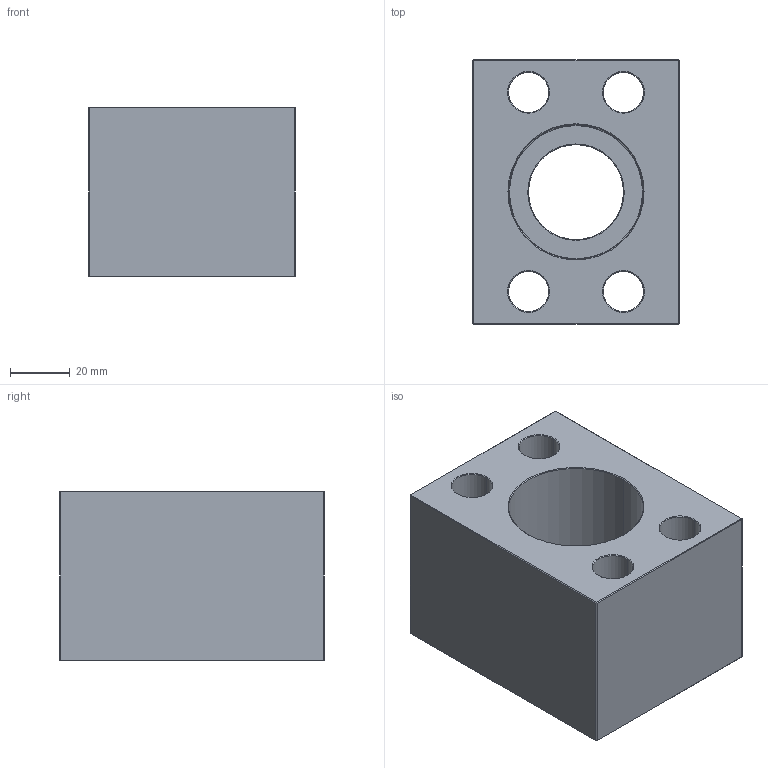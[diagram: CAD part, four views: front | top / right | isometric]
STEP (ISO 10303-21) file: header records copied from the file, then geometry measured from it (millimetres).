
FILE_DESCRIPTION (( 'STEP AP214' ), '1' );
FILE_NAME ('ICF-B-6220-C.STEP', '2016-10-02T03:12:57', ( '' ), ( '' ), 'SwSTEP 2.0', 'SolidWorks 2016', '' );
FILE_SCHEMA (( 'AUTOMOTIVE_DESIGN' ));
Length unit declared in the file: inch
Products named in the file (1): ICF-B-6220-C
Bounding box: 69.09 x 88.52 x 56.77 mm (x, y, z)
Volume: 228831.8 mm3; surface area: 44775.5 mm2
Topology: 1 solids, 1 shells, 301 faces, 765 edges, 494 vertices
Faces by surface type: plane 165, bspline 100, cone 22, cylinder 12, torus 2
Entity records: 13405 total; most frequent: CARTESIAN_POINT 6741, ORIENTED_EDGE 1530, DIRECTION 1019, EDGE_CURVE 765, LINE 515, VECTOR 515, VERTEX_POINT 494, EDGE_LOOP 339
